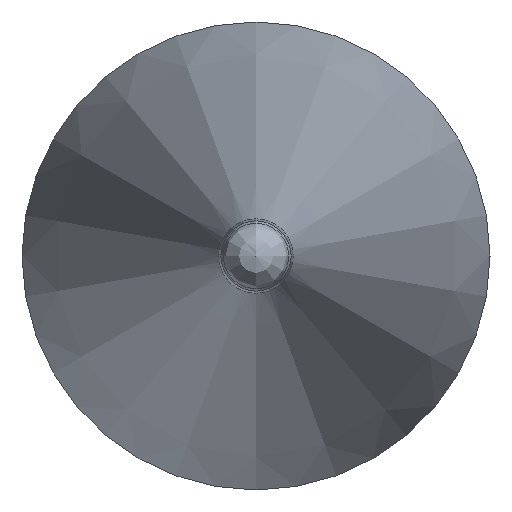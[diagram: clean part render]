
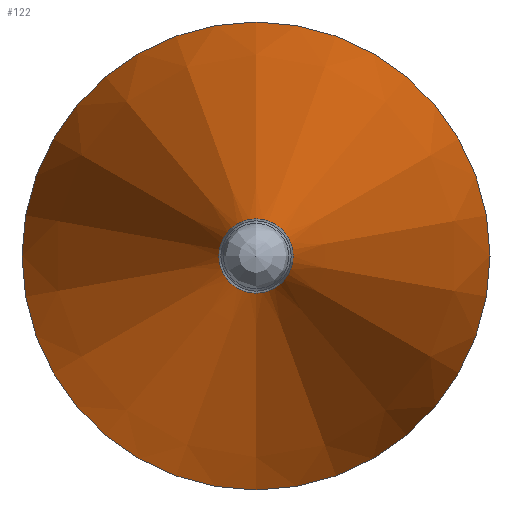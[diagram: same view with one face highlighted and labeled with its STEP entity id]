
A CAD part, left-side view. The second image highlights one B-rep face of the part: STEP entity #122.
In plain terms, the highlighted conical face has half-angle 12 degrees and reference radius 2 mm.
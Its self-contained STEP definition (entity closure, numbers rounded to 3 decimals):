
#98=CONICAL_SURFACE('',#197,2.,12.);
#107=FACE_BOUND('',#136,.T.);
#108=FACE_BOUND('',#137,.T.);
#122=ADVANCED_FACE('',(#107,#108),#98,.T.);
#136=EDGE_LOOP('',(#152));
#137=EDGE_LOOP('',(#153));
#152=ORIENTED_EDGE('',*,*,#175,.F.);
#153=ORIENTED_EDGE('',*,*,#176,.T.);
#166=VERTEX_POINT('',#249);
#167=VERTEX_POINT('',#252);
#175=EDGE_CURVE('',#166,#166,#183,.T.);
#176=EDGE_CURVE('',#167,#167,#184,.T.);
#183=CIRCLE('',#194,0.318);
#184=CIRCLE('',#196,2.);
#194=AXIS2_PLACEMENT_3D('',#248,#217,#218);
#196=AXIS2_PLACEMENT_3D('',#251,#221,#222);
#197=AXIS2_PLACEMENT_3D('',#253,#223,#224);
#217=DIRECTION('',(-1.,0.,0.));
#218=DIRECTION('',(0.,0.,1.));
#221=DIRECTION('',(-1.,0.,0.));
#222=DIRECTION('',(0.,0.,1.));
#223=DIRECTION('',(1.,0.,0.));
#224=DIRECTION('',(0.,0.,-1.));
#248=CARTESIAN_POINT('',(7899.912,6103.288,0.));
#249=CARTESIAN_POINT('',(7899.912,6103.288,0.318));
#251=CARTESIAN_POINT('',(7907.826,6103.288,0.));
#252=CARTESIAN_POINT('',(7907.826,6103.288,2.));
#253=CARTESIAN_POINT('',(7907.826,6103.288,0.));
